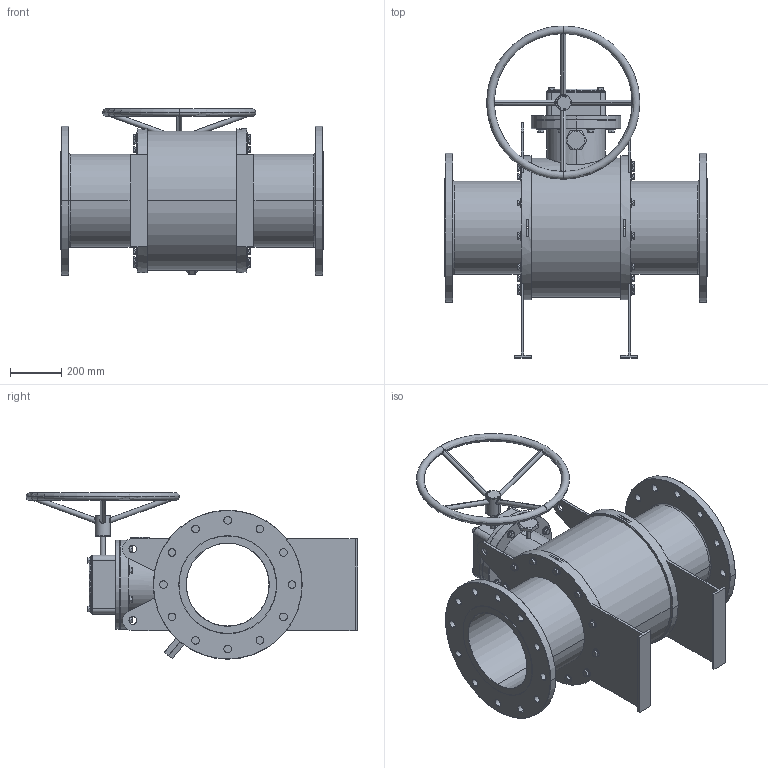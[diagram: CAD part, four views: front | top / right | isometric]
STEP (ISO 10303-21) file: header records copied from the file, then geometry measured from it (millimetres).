
FILE_DESCRIPTION (( 'STEP AP203' ), '1' );
FILE_NAME ('GB2_ANSI_900_14IN_HD.STEP', '2025-10-09T15:09:31', ( '' ), ( '' ), 'SwSTEP 2.0', 'SolidWorks 2025', '' );
FILE_SCHEMA (( 'CONFIG_CONTROL_DESIGN' ));
Length unit declared in the file: millimetre
Products named in the file (3): GB2_ANSI_2500_1500_ANSI_900_14IN; hex flange screw_am_B18.2.3.4M - Hex flange screw, M16 x 2.0 x 25 --25N; GB2_ANSI_900_14IN_HD
Assembly tree (37 placements, depth 2):
  GB2_ANSI_900_14IN_HD
    GB2_ANSI_2500_1500_ANSI_900_14IN
    hex flange screw_am_B18.2.3.4M - Hex flange screw, M16 x 2.0 x 25 --25N  x36
Bounding box: 1029 x 1300 x 651.98 mm (x, y, z)
Volume: 108922419.2 mm3; surface area: 5187061.5 mm2
Topology: 38 solids, 38 shells, 1605 faces, 3640 edges, 2196 vertices
Faces by surface type: plane 528, cone 392, cylinder 297, bspline 286, torus 96, sphere 6
Entity records: 27333 total; most frequent: CARTESIAN_POINT 11948, ORIENTED_EDGE 2932, DIRECTION 2904, EDGE_CURVE 1466, AXIS2_PLACEMENT_3D 1110, VERTEX_POINT 934, EDGE_LOOP 736, VECTOR 684
